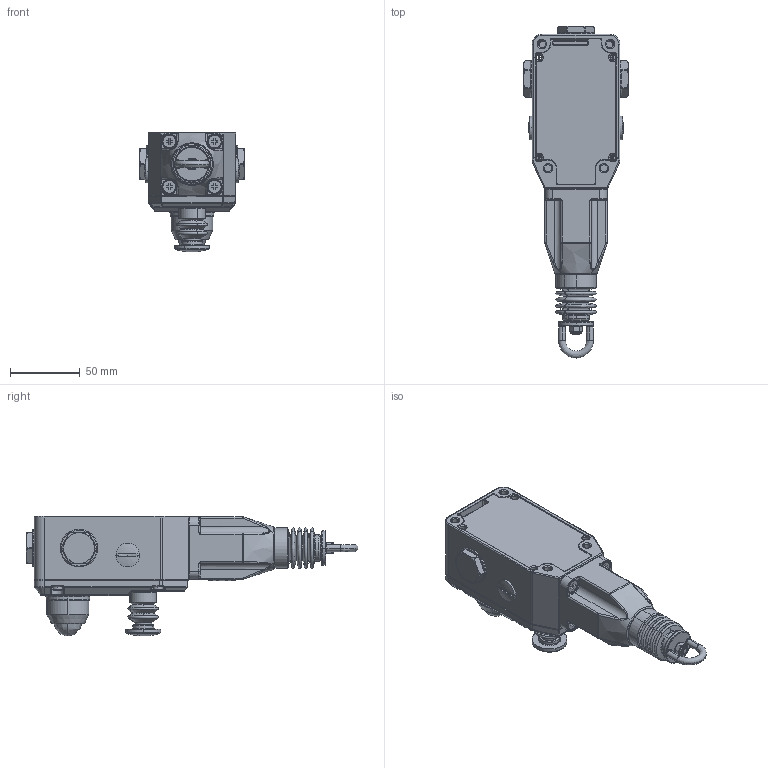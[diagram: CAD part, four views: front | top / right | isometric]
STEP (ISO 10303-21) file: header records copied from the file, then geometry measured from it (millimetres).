
FILE_DESCRIPTION (( 'STEP AP214' ), '1' );
FILE_NAME ('CEC-ME...A.STEP', '2015-10-27T15:47:29', ( '' ), ( '' ), 'SwSTEP 2.0', 'SolidWorks 2015', '' );
FILE_SCHEMA (( 'AUTOMOTIVE_DESIGN' ));
Length unit declared in the file: millimetre
Products named in the file (1): CEC-ME...A
Bounding box: 75 x 238 x 86 mm (x, y, z)
Surface area: 61096.1 mm2 (no closed solid volume)
Topology: 0 solids, 897 shells, 954 faces, 4331 edges, 4243 vertices
Faces by surface type: cylinder 349, bspline 339, plane 181, cone 85
Entity records: 78297 total; most frequent: CARTESIAN_POINT 44112, DIRECTION 4878, ORIENTED_EDGE 4357, EDGE_CURVE 4300, VERTEX_POINT 4243, AXIS2_PLACEMENT_3D 1723, LINE 1432, VECTOR 1432
